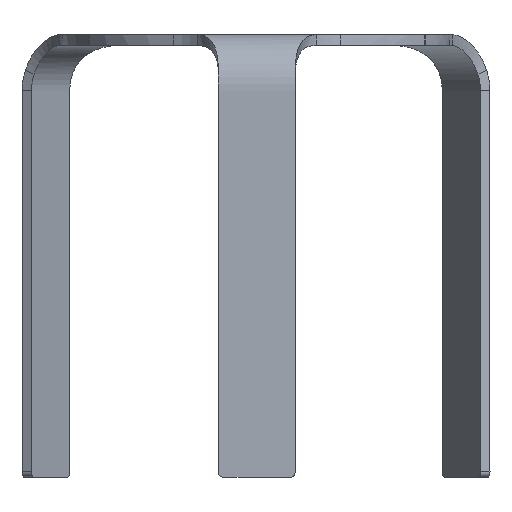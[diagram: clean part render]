
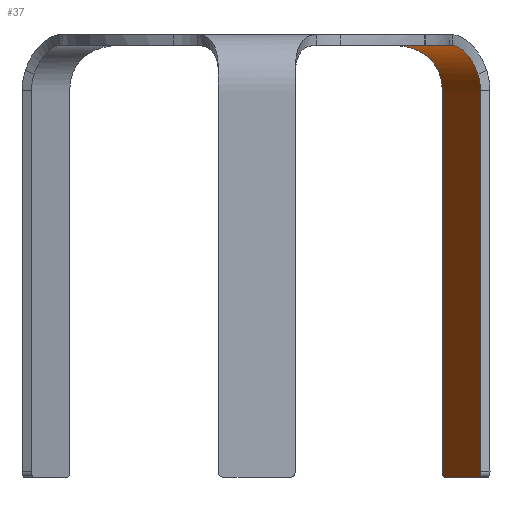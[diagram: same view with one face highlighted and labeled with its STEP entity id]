
A CAD part, left-side view. The second image highlights one B-rep face of the part: STEP entity #37.
In plain terms, the highlighted free-form (B-spline) face has degree [1, 2] with [2, 5] control points.
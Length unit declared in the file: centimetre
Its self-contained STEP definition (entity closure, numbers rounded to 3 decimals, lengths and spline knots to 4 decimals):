
#37=ADVANCED_FACE($,(#87),#651,.T.);
#87=FACE_OUTER_BOUND($,#137,.T.);
#137=EDGE_LOOP($,(#268,#269,#270,#271,#272,#273,#274,#275,#276,#277));
#268=ORIENTED_EDGE($,*,*,#498,.T.);
#269=ORIENTED_EDGE($,*,*,#502,.T.);
#270=ORIENTED_EDGE($,*,*,#493,.F.);
#271=ORIENTED_EDGE($,*,*,#499,.T.);
#272=ORIENTED_EDGE($,*,*,#495,.F.);
#273=ORIENTED_EDGE($,*,*,#488,.F.);
#274=ORIENTED_EDGE($,*,*,#550,.F.);
#275=ORIENTED_EDGE($,*,*,#481,.F.);
#276=ORIENTED_EDGE($,*,*,#500,.T.);
#277=ORIENTED_EDGE($,*,*,#501,.T.);
#481=EDGE_CURVE($,#599,#597,#776,.T.);
#488=EDGE_CURVE($,#603,#604,#783,.T.);
#493=EDGE_CURVE($,#608,#609,#710,.T.);
#495=EDGE_CURVE($,#604,#610,#712,.T.);
#498=EDGE_CURVE($,#612,#613,#786,.T.);
#499=EDGE_CURVE($,#608,#610,#715,.T.);
#500=EDGE_CURVE($,#599,#614,#716,.T.);
#501=EDGE_CURVE($,#614,#612,#717,.T.);
#502=EDGE_CURVE($,#613,#609,#718,.T.);
#550=EDGE_CURVE($,#597,#603,#816,.T.);
#597=VERTEX_POINT($,#2787);
#599=VERTEX_POINT($,#2789);
#603=VERTEX_POINT($,#2793);
#604=VERTEX_POINT($,#2794);
#608=VERTEX_POINT($,#2798);
#609=VERTEX_POINT($,#2799);
#610=VERTEX_POINT($,#2800);
#612=VERTEX_POINT($,#2802);
#613=VERTEX_POINT($,#2803);
#614=VERTEX_POINT($,#2804);
#651=(
BOUNDED_SURFACE()
B_SPLINE_SURFACE(1,2,((#2109,#2110,#2111,#2112,#2113),(#2114,#2115,#2116,
#2117,#2118)),.UNSPECIFIED.,.F.,.F.,.F.)
B_SPLINE_SURFACE_WITH_KNOTS((2,2),(3,2,3),(0.0005,132.1748),
(0.,81.867,527.9718),.UNSPECIFIED.)
GEOMETRIC_REPRESENTATION_ITEM()
RATIONAL_B_SPLINE_SURFACE(((1.,0.707,1.,1.,1.),(1.,0.707,
1.,1.,1.)))
REPRESENTATION_ITEM($)
SURFACE()
);
#710=(
BOUNDED_CURVE()
B_SPLINE_CURVE(2,(#1287,#1288,#1289),.UNSPECIFIED.,.F.,.F.)
B_SPLINE_CURVE_WITH_KNOTS((3,3),(-3.1416,-1.5708),.UNSPECIFIED.)
CURVE()
GEOMETRIC_REPRESENTATION_ITEM()
RATIONAL_B_SPLINE_CURVE((1.,0.707,1.))
REPRESENTATION_ITEM($)
);
#712=(
BOUNDED_CURVE()
B_SPLINE_CURVE(3,(#1292,#1293,#1294,#1295,#1296,#1297,#1298,#1299,#1300,
#1301,#1302,#1303,#1304,#1305,#1306,#1307,#1308,#1309,#1310),.UNSPECIFIED.,
.F.,.F.)
B_SPLINE_CURVE_WITH_KNOTS((4,3,3,3,3,3,4),(59.1817,61.8086,
67.0624,71.0028,74.9432,76.9133,78.5393),
.UNSPECIFIED.)
CURVE()
GEOMETRIC_REPRESENTATION_ITEM()
RATIONAL_B_SPLINE_CURVE((1.,0.966,0.933,0.902,
0.909,0.918,0.927,0.934,0.941,
0.949,0.957,0.966,0.974,0.979,
0.983,0.988,0.992,0.996,
1.))
REPRESENTATION_ITEM($)
);
#715=(
BOUNDED_CURVE()
B_SPLINE_CURVE(2,(#1326,#1327,#1328),.UNSPECIFIED.,.F.,.F.)
B_SPLINE_CURVE_WITH_KNOTS((3,3),(-500.5012,-78.5393),.UNSPECIFIED.)
CURVE()
GEOMETRIC_REPRESENTATION_ITEM()
RATIONAL_B_SPLINE_CURVE((1.,1.,1.))
REPRESENTATION_ITEM($)
);
#716=(
BOUNDED_CURVE()
B_SPLINE_CURVE(2,(#1329,#1330,#1331),.UNSPECIFIED.,.F.,.F.)
B_SPLINE_CURVE_WITH_KNOTS((3,3),(-488.8825,-469.4982),.UNSPECIFIED.)
CURVE()
GEOMETRIC_REPRESENTATION_ITEM()
RATIONAL_B_SPLINE_CURVE((1.,0.983,1.))
REPRESENTATION_ITEM($)
);
#717=(
BOUNDED_CURVE()
B_SPLINE_CURVE(2,(#1332,#1333,#1334),.UNSPECIFIED.,.F.,.F.)
B_SPLINE_CURVE_WITH_KNOTS((3,3),(-469.4982,-47.5364),.UNSPECIFIED.)
CURVE()
GEOMETRIC_REPRESENTATION_ITEM()
RATIONAL_B_SPLINE_CURVE((1.,1.,1.))
REPRESENTATION_ITEM($)
);
#718=(
BOUNDED_CURVE()
B_SPLINE_CURVE(1,(#1335,#1336),.UNSPECIFIED.,.F.,.F.)
B_SPLINE_CURVE_WITH_KNOTS((2,2),(-102.5871,-29.587),.UNSPECIFIED.)
CURVE()
GEOMETRIC_REPRESENTATION_ITEM()
RATIONAL_B_SPLINE_CURVE((1.,1.))
REPRESENTATION_ITEM($)
);
#776=B_SPLINE_CURVE_WITH_KNOTS($,3,(#1212,#1213,#1214,#1215,#1216,#1217,
#1218,#1219,#1220,#1221,#1222,#1223),.UNSPECIFIED.,.F.,.F.,(4,1,1,1,1,1,
1,1,1,4),(-65.9519,-62.8114,-56.5302,-47.1085,
-37.6868,-28.2651,-18.8434,-9.4217,-3.1406,
0.),.UNSPECIFIED.);
#783=B_SPLINE_CURVE_WITH_KNOTS($,3,(#1256,#1257,#1258,#1259,#1260,#1261,
#1262,#1263,#1264,#1265,#1266,#1267),.UNSPECIFIED.,.F.,.F.,(4,1,1,1,1,1,
1,1,1,4),(0.,3.1416,9.4249,18.8498,28.2746,
37.6995,47.1244,56.5493,62.8325,65.9741),
.UNSPECIFIED.);
#786=B_SPLINE_CURVE_WITH_KNOTS($,3,(#1322,#1323,#1324,#1325),.UNSPECIFIED.,
.F.,.F.,(4,4),(0.,9.4227),.UNSPECIFIED.);
#816=B_SPLINE_CURVE_WITH_KNOTS($,3,(#1603,#1604,#1605,#1606),.UNSPECIFIED.,
.F.,.F.,(4,4),(0.,132.1721),.UNSPECIFIED.);
#1212=CARTESIAN_POINT($,(16.5824,-20.2277,44.6131));
#1213=CARTESIAN_POINT($,(16.5634,-20.1948,44.7106));
#1214=CARTESIAN_POINT($,(16.5065,-20.0852,44.9996));
#1215=CARTESIAN_POINT($,(16.3954,-19.8031,45.5516));
#1216=CARTESIAN_POINT($,(16.2582,-19.2978,46.2113));
#1217=CARTESIAN_POINT($,(16.1343,-18.5841,46.8216));
#1218=CARTESIAN_POINT($,(16.0582,-17.7613,47.2837));
#1219=CARTESIAN_POINT($,(16.0475,-16.8678,47.5948));
#1220=CARTESIAN_POINT($,(16.1097,-16.0433,47.7455));
#1221=CARTESIAN_POINT($,(16.2074,-15.4237,47.7909));
#1222=CARTESIAN_POINT($,(16.2725,-15.1164,47.7962));
#1223=CARTESIAN_POINT($,(16.296,-15.0143,47.7962));
#1256=CARTESIAN_POINT($,(4.8494,-21.6229,47.7962));
#1257=CARTESIAN_POINT($,(4.9495,-21.6536,47.7962));
#1258=CARTESIAN_POINT($,(5.2482,-21.7512,47.7909));
#1259=CARTESIAN_POINT($,(5.8337,-21.977,47.7454));
#1260=CARTESIAN_POINT($,(6.5789,-22.3359,47.5945));
#1261=CARTESIAN_POINT($,(7.3473,-22.7923,47.2831));
#1262=CARTESIAN_POINT($,(8.0217,-23.2697,46.8205));
#1263=CARTESIAN_POINT($,(8.578,-23.7337,46.2097));
#1264=CARTESIAN_POINT($,(8.9475,-24.1047,45.5496));
#1265=CARTESIAN_POINT($,(9.1362,-24.3418,44.9973));
#1266=CARTESIAN_POINT($,(9.2026,-24.4457,44.7082));
#1267=CARTESIAN_POINT($,(9.2216,-24.4786,44.6106));
#1287=CARTESIAN_POINT($,(9.3921,-24.7737,0.6));
#1288=CARTESIAN_POINT($,(9.3921,-24.7737,0.));
#1289=CARTESIAN_POINT($,(9.9117,-24.4737,0.));
#1292=CARTESIAN_POINT($,(9.2216,-24.4786,44.6106));
#1293=CARTESIAN_POINT($,(9.2376,-24.5063,44.5284));
#1294=CARTESIAN_POINT($,(9.2525,-24.532,44.4457));
#1295=CARTESIAN_POINT($,(9.2663,-24.5558,44.3623));
#1296=CARTESIAN_POINT($,(9.2934,-24.6029,44.1976));
#1297=CARTESIAN_POINT($,(9.3161,-24.6422,44.0311));
#1298=CARTESIAN_POINT($,(9.3345,-24.674,43.8632));
#1299=CARTESIAN_POINT($,(9.348,-24.6974,43.7395));
#1300=CARTESIAN_POINT($,(9.3591,-24.7166,43.6154));
#1301=CARTESIAN_POINT($,(9.3678,-24.7317,43.491));
#1302=CARTESIAN_POINT($,(9.3764,-24.7466,43.3686));
#1303=CARTESIAN_POINT($,(9.3827,-24.7575,43.2462));
#1304=CARTESIAN_POINT($,(9.3867,-24.7644,43.124));
#1305=CARTESIAN_POINT($,(9.3887,-24.7678,43.0637));
#1306=CARTESIAN_POINT($,(9.3901,-24.7703,43.0035));
#1307=CARTESIAN_POINT($,(9.391,-24.7718,42.9434));
#1308=CARTESIAN_POINT($,(9.3917,-24.7731,42.8943));
#1309=CARTESIAN_POINT($,(9.3921,-24.7737,42.8452));
#1310=CARTESIAN_POINT($,(9.3921,-24.7737,42.7962));
#1322=CARTESIAN_POINT($,(16.7533,-20.5237,0.6));
#1323=CARTESIAN_POINT($,(16.7533,-20.5237,0.2801));
#1324=CARTESIAN_POINT($,(16.5305,-20.6523,0.));
#1325=CARTESIAN_POINT($,(16.2337,-20.8237,0.));
#1326=CARTESIAN_POINT($,(9.3921,-24.7737,0.6));
#1327=CARTESIAN_POINT($,(9.3921,-24.7737,21.6981));
#1328=CARTESIAN_POINT($,(9.3921,-24.7737,42.7962));
#1329=CARTESIAN_POINT($,(16.5824,-20.2277,44.6131));
#1330=CARTESIAN_POINT($,(16.7533,-20.5237,43.7368));
#1331=CARTESIAN_POINT($,(16.7533,-20.5237,42.7962));
#1332=CARTESIAN_POINT($,(16.7533,-20.5237,42.7962));
#1333=CARTESIAN_POINT($,(16.7533,-20.5237,21.6981));
#1334=CARTESIAN_POINT($,(16.7533,-20.5237,0.6));
#1335=CARTESIAN_POINT($,(16.2337,-20.8237,0.));
#1336=CARTESIAN_POINT($,(9.9117,-24.4737,0.));
#1603=CARTESIAN_POINT($,(16.296,-15.0143,47.7962));
#1604=CARTESIAN_POINT($,(12.4805,-17.2172,47.7962));
#1605=CARTESIAN_POINT($,(8.6649,-19.4201,47.7962));
#1606=CARTESIAN_POINT($,(4.8494,-21.6229,47.7962));
#2109=CARTESIAN_POINT($,(4.8494,-21.6229,47.7962));
#2110=CARTESIAN_POINT($,(7.3494,-25.9531,47.7962));
#2111=CARTESIAN_POINT($,(7.3494,-25.9531,42.7962));
#2112=CARTESIAN_POINT($,(7.3494,-25.9531,21.3976));
#2113=CARTESIAN_POINT($,(7.3494,-25.9531,-0.001));
#2114=CARTESIAN_POINT($,(16.296,-15.0142,47.7962));
#2115=CARTESIAN_POINT($,(18.796,-19.3443,47.7962));
#2116=CARTESIAN_POINT($,(18.796,-19.3443,42.7962));
#2117=CARTESIAN_POINT($,(18.796,-19.3443,21.3976));
#2118=CARTESIAN_POINT($,(18.796,-19.3443,-0.001));
#2787=CARTESIAN_POINT($,(16.296,-15.0143,47.7962));
#2789=CARTESIAN_POINT($,(16.5824,-20.2277,44.6131));
#2793=CARTESIAN_POINT($,(4.8494,-21.6229,47.7962));
#2794=CARTESIAN_POINT($,(9.2216,-24.4786,44.6106));
#2798=CARTESIAN_POINT($,(9.3921,-24.7737,0.6));
#2799=CARTESIAN_POINT($,(9.9117,-24.4737,0.));
#2800=CARTESIAN_POINT($,(9.3921,-24.7737,42.7962));
#2802=CARTESIAN_POINT($,(16.7533,-20.5237,0.6));
#2803=CARTESIAN_POINT($,(16.2337,-20.8237,0.));
#2804=CARTESIAN_POINT($,(16.7533,-20.5237,42.7962));
